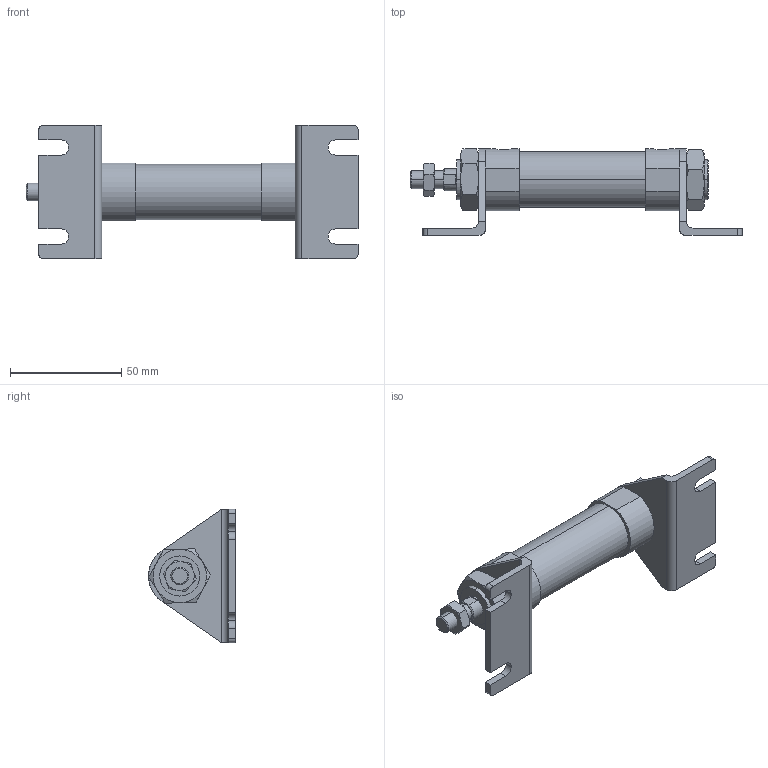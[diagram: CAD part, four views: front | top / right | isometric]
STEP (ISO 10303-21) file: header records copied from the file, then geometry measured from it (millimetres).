
FILE_DESCRIPTION (( 'STEP AP203' ), '1' );
FILE_NAME ('J#2-20-25-L.STEP', '2016-03-10T00:48:37', ( '' ), ( '' ), 'SwSTEP 2.0', 'SolidWorks 2014', '' );
FILE_SCHEMA (( 'CONFIG_CONTROL_DESIGN' ));
Length unit declared in the file: millimetre
Products named in the file (5): J#2-20-25-L; J#2-20-25; J#2-20-L
Assembly tree (6 placements, depth 2):
  J#2-20-25-L
    J#2-20-25
    (unnamed)
    (unnamed)  x2
    J#2-20-L  x2
Bounding box: 149.2 x 39 x 60 mm (x, y, z)
Volume: 74252.2 mm3; surface area: 27247.1 mm2
Topology: 6 solids, 6 shells, 168 faces, 392 edges, 246 vertices
Faces by surface type: plane 74, cylinder 52, torus 36, cone 6
Entity records: 4278 total; most frequent: CARTESIAN_POINT 1025, DIRECTION 577, ORIENTED_EDGE 542, EDGE_CURVE 271, AXIS2_PLACEMENT_3D 234, VERTEX_POINT 170, EDGE_LOOP 135, ADVANCED_FACE 119
